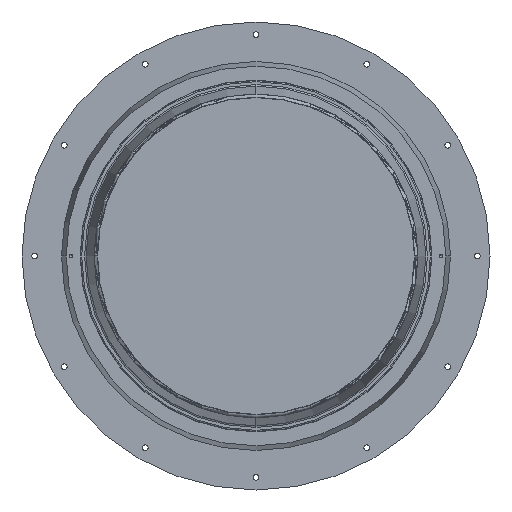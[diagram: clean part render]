
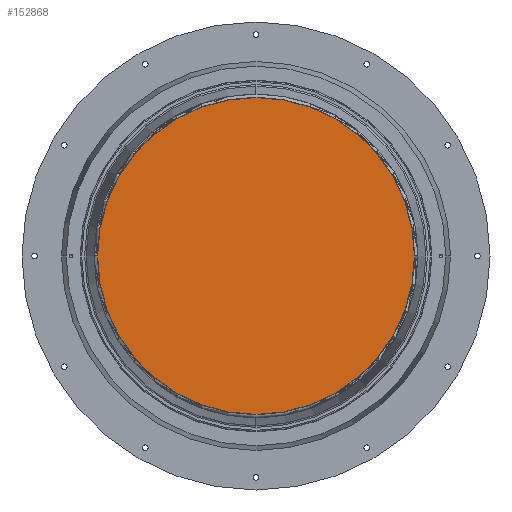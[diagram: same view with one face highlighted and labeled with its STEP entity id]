
A CAD part, front view. The second image highlights one B-rep face of the part: STEP entity #152868.
In plain terms, the highlighted planar face has unit normal (0, -1, 0).
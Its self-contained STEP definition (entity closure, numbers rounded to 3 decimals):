
#7146 = CARTESIAN_POINT ( 'NONE',  ( -502.042, 0., 500000. ) ) ;
#15298 = EDGE_LOOP ( 'NONE', ( #137244, #117164 ) ) ;
#20062 = PLANE ( 'NONE',  #131275 ) ;
#20086 = CARTESIAN_POINT ( 'NONE',  ( 0., 0., 0. ) ) ;
#20654 = DIRECTION ( 'NONE',  ( 0., 0., 1. ) ) ;
#33510 = DIRECTION ( 'NONE',  ( 0., 0., -1. ) ) ;
#35884 = EDGE_CURVE ( 'NONE', #119067, #70759, #164436, .T. ) ;
#64613 = DIRECTION ( 'NONE',  ( 0., -1., 0. ) ) ;
#70759 = VERTEX_POINT ( 'NONE', #139113 ) ;
#73406 = FACE_OUTER_BOUND ( 'NONE', #15298, .T. ) ;
#80386 = AXIS2_PLACEMENT_3D ( 'NONE', #144917, #64613, #158372 ) ;
#80929 = EDGE_CURVE ( 'NONE', #70759, #119067, #101575, .T. ) ;
#90520 = AXIS2_PLACEMENT_3D ( 'NONE', #20086, #113782, #33510 ) ;
#93571 = CARTESIAN_POINT ( 'NONE',  ( -500.958, 0., 0. ) ) ;
#100821 = DIRECTION ( 'NONE',  ( 0., 1., 0. ) ) ;
#101575 = CIRCLE ( 'NONE', #90520, 500.958 ) ;
#113782 = DIRECTION ( 'NONE',  ( 0., -1., 0. ) ) ;
#117164 = ORIENTED_EDGE ( 'NONE', *, *, #35884, .T. ) ;
#119067 = VERTEX_POINT ( 'NONE', #93571 ) ;
#131275 = AXIS2_PLACEMENT_3D ( 'NONE', #7146, #100821, #20654 ) ;
#137244 = ORIENTED_EDGE ( 'NONE', *, *, #80929, .T. ) ;
#139113 = CARTESIAN_POINT ( 'NONE',  ( 500.958, 0., 0. ) ) ;
#144917 = CARTESIAN_POINT ( 'NONE',  ( 0., 0., 0. ) ) ;
#152868 = ADVANCED_FACE ( 'NONE', ( #73406 ), #20062, .F. ) ;
#158372 = DIRECTION ( 'NONE',  ( 0., 0., -1. ) ) ;
#164436 = CIRCLE ( 'NONE', #80386, 500.958 ) ;
